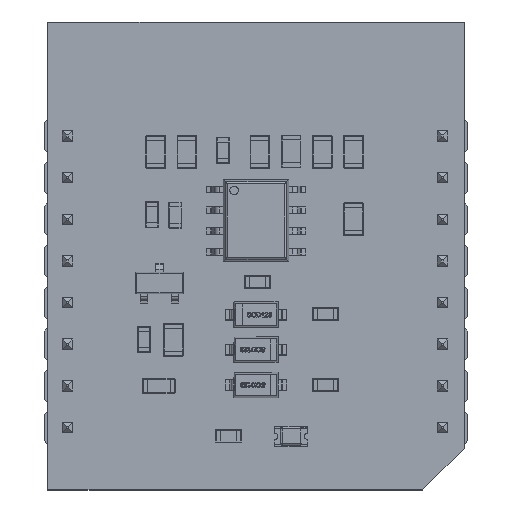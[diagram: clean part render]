
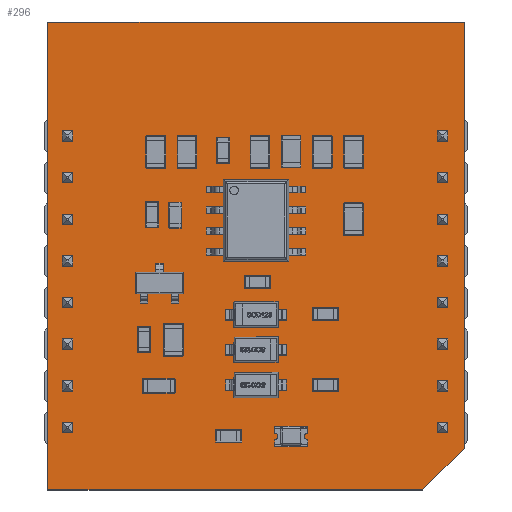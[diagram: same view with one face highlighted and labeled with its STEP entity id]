
A CAD part, top view. The second image highlights one B-rep face of the part: STEP entity #296.
In plain terms, the highlighted planar face has unit normal (0, 0, 1).
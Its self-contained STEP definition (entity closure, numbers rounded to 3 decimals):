
#135 = VERTEX_POINT('',#136);
#136 = CARTESIAN_POINT('',(-1.27,-3.81,0.));
#142 = EDGE_CURVE('',#135,#143,#145,.T.);
#143 = VERTEX_POINT('',#144);
#144 = CARTESIAN_POINT('',(-1.27,24.74,0.));
#145 = LINE('',#146,#147);
#146 = CARTESIAN_POINT('',(-1.27,-3.81,0.));
#147 = VECTOR('',#148,1.);
#148 = DIRECTION('',(0.,1.,0.));
#173 = EDGE_CURVE('',#143,#174,#176,.T.);
#174 = VERTEX_POINT('',#175);
#175 = CARTESIAN_POINT('',(24.13,24.74,0.));
#176 = LINE('',#177,#178);
#177 = CARTESIAN_POINT('',(-1.27,24.74,0.));
#178 = VECTOR('',#179,1.);
#179 = DIRECTION('',(1.,0.,0.));
#204 = EDGE_CURVE('',#174,#205,#207,.T.);
#205 = VERTEX_POINT('',#206);
#206 = CARTESIAN_POINT('',(24.13,-1.27,0.));
#207 = LINE('',#208,#209);
#208 = CARTESIAN_POINT('',(24.13,24.74,0.));
#209 = VECTOR('',#210,1.);
#210 = DIRECTION('',(0.,-1.,0.));
#235 = EDGE_CURVE('',#205,#236,#238,.T.);
#236 = VERTEX_POINT('',#237);
#237 = CARTESIAN_POINT('',(21.59,-3.81,0.));
#238 = LINE('',#239,#240);
#239 = CARTESIAN_POINT('',(24.13,-1.27,0.));
#240 = VECTOR('',#241,1.);
#241 = DIRECTION('',(-0.707,-0.707,0.));
#266 = EDGE_CURVE('',#236,#135,#267,.T.);
#267 = LINE('',#268,#269);
#268 = CARTESIAN_POINT('',(21.59,-3.81,0.));
#269 = VECTOR('',#270,1.);
#270 = DIRECTION('',(-1.,0.,0.));
#296 = ADVANCED_FACE('',(#297),#304,.T.);
#297 = FACE_BOUND('',#298,.F.);
#298 = EDGE_LOOP('',(#299,#300,#301,#302,#303));
#299 = ORIENTED_EDGE('',*,*,#142,.T.);
#300 = ORIENTED_EDGE('',*,*,#173,.T.);
#301 = ORIENTED_EDGE('',*,*,#204,.T.);
#302 = ORIENTED_EDGE('',*,*,#235,.T.);
#303 = ORIENTED_EDGE('',*,*,#266,.T.);
#304 = PLANE('',#305);
#305 = AXIS2_PLACEMENT_3D('',#306,#307,#308);
#306 = CARTESIAN_POINT('',(-1.27,-3.81,0.));
#307 = DIRECTION('',(0.,0.,1.));
#308 = DIRECTION('',(1.,0.,0.));
